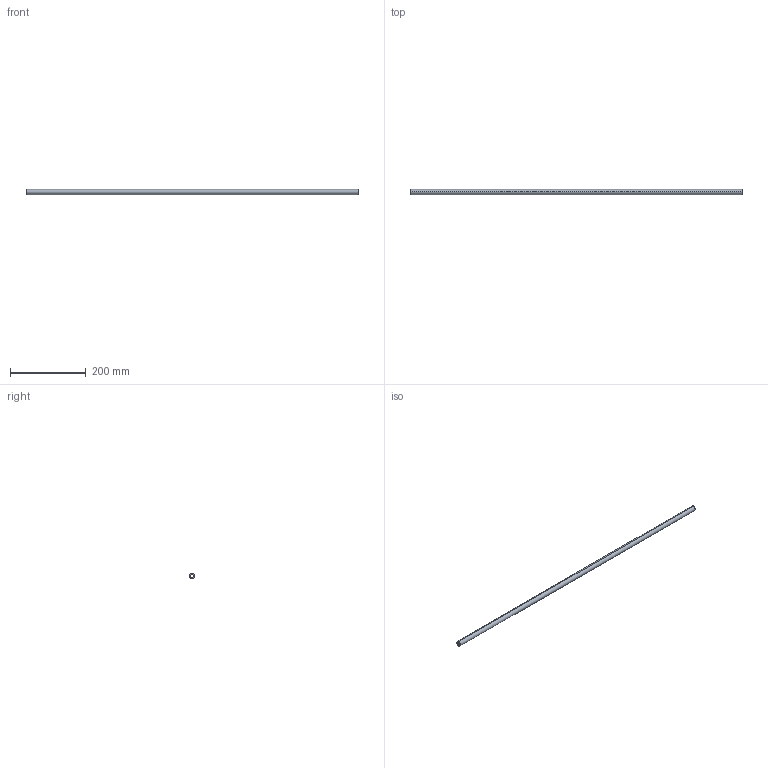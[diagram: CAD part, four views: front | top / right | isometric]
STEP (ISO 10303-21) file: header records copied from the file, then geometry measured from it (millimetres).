
FILE_DESCRIPTION (( 'STEP AP214' ), '1' );
FILE_NAME ('SyncronisationsstangeNova_Pro_KAB_1000_KS16.step', '2009-11-24T08:53:18', ( 'Grass' ), ( 'Grass GmbH' ), 'SwSTEP 2.0', 'SolidWorks 2009', '' );
FILE_SCHEMA (( 'AUTOMOTIVE_DESIGN' ));
Length unit declared in the file: millimetre
Products named in the file (1): SyncronisationsstangeNova_Pro_KAB_1000_KS16
Bounding box: 879 x 14 x 14 mm (x, y, z)
Volume: 95046 mm3; surface area: 61274.4 mm2
Topology: 1 solids, 1 shells, 15 faces, 39 edges, 26 vertices
Faces by surface type: cylinder 11, plane 4
Entity records: 513 total; most frequent: DIRECTION 93, CARTESIAN_POINT 81, ORIENTED_EDGE 78, EDGE_CURVE 39, AXIS2_PLACEMENT_3D 38, VERTEX_POINT 26, CIRCLE 22, VECTOR 17
